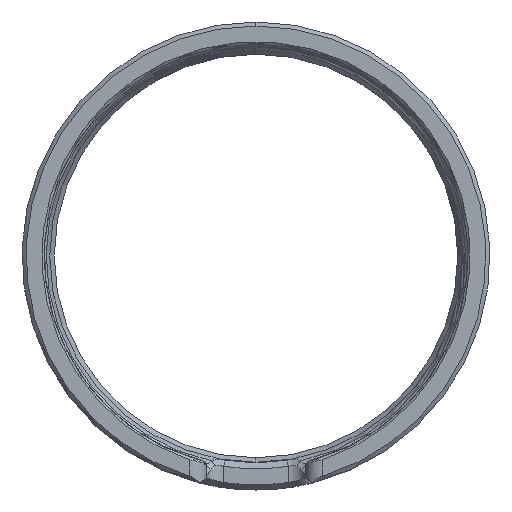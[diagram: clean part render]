
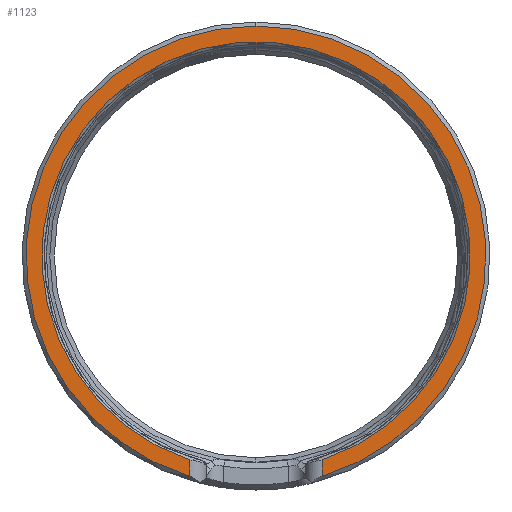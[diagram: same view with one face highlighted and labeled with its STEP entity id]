
A CAD part, left-side view. The second image highlights one B-rep face of the part: STEP entity #1123.
In plain terms, the highlighted planar face has unit normal (-1, 0, 0).
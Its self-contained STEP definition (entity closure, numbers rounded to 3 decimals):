
#39 = DIRECTION ( 'NONE',  ( 0., 0., 1. ) ) ;
#40 = EDGE_CURVE ( 'NONE', #5209, #4186, #5491, .T. ) ;
#746 = CIRCLE ( 'NONE', #1543, 26.55 ) ;
#902 = PLANE ( 'NONE',  #1531 ) ;
#1061 = DIRECTION ( 'NONE',  ( 0., 0., 1. ) ) ;
#1123 = ADVANCED_FACE ( 'NONE', ( #6392 ), #902, .T. ) ;
#1268 = LINE ( 'NONE', #3426, #3458 ) ;
#1314 = VECTOR ( 'NONE', #1061, 1000. ) ;
#1421 = EDGE_CURVE ( 'NONE', #3595, #2064, #5923, .T. ) ;
#1531 = AXIS2_PLACEMENT_3D ( 'NONE', #4786, #5316, #3095 ) ;
#1543 = AXIS2_PLACEMENT_3D ( 'NONE', #3983, #2386, #2997 ) ;
#1616 = ORIENTED_EDGE ( 'NONE', *, *, #1421, .F. ) ;
#1760 = AXIS2_PLACEMENT_3D ( 'NONE', #6103, #2516, #6641 ) ;
#1768 = EDGE_CURVE ( 'NONE', #2064, #2787, #746, .T. ) ;
#2064 = VERTEX_POINT ( 'NONE', #6872 ) ;
#2386 = DIRECTION ( 'NONE',  ( -1., 0., 0. ) ) ;
#2516 = DIRECTION ( 'NONE',  ( -1., 0., 0. ) ) ;
#2571 = ORIENTED_EDGE ( 'NONE', *, *, #4802, .T. ) ;
#2772 = CIRCLE ( 'NONE', #1760, 28.5 ) ;
#2787 = VERTEX_POINT ( 'NONE', #6022 ) ;
#2873 = CARTESIAN_POINT ( 'NONE',  ( -300., -8.2, -27.295 ) ) ;
#2997 = DIRECTION ( 'NONE',  ( 0., 0., 1. ) ) ;
#3095 = DIRECTION ( 'NONE',  ( 0., 0., -1. ) ) ;
#3195 = DIRECTION ( 'NONE',  ( 0., 0., 1. ) ) ;
#3235 = EDGE_LOOP ( 'NONE', ( #1616, #2571, #3723, #4393, #4194 ) ) ;
#3426 = CARTESIAN_POINT ( 'NONE',  ( -300., 8.2, -29. ) ) ;
#3458 = VECTOR ( 'NONE', #39, 1000. ) ;
#3595 = VERTEX_POINT ( 'NONE', #2873 ) ;
#3689 = DIRECTION ( 'NONE',  ( -1., 0., 0. ) ) ;
#3723 = ORIENTED_EDGE ( 'NONE', *, *, #40, .T. ) ;
#3820 = CARTESIAN_POINT ( 'NONE',  ( -300., -8.2, -29. ) ) ;
#3983 = CARTESIAN_POINT ( 'NONE',  ( -300., 0., 0. ) ) ;
#4186 = VERTEX_POINT ( 'NONE', #6976 ) ;
#4194 = ORIENTED_EDGE ( 'NONE', *, *, #1768, .F. ) ;
#4393 = ORIENTED_EDGE ( 'NONE', *, *, #5224, .T. ) ;
#4695 = AXIS2_PLACEMENT_3D ( 'NONE', #5900, #3689, #3195 ) ;
#4786 = CARTESIAN_POINT ( 'NONE',  ( -300., 0., 0. ) ) ;
#4802 = EDGE_CURVE ( 'NONE', #3595, #5209, #2772, .T. ) ;
#5209 = VERTEX_POINT ( 'NONE', #6120 ) ;
#5224 = EDGE_CURVE ( 'NONE', #4186, #2787, #1268, .T. ) ;
#5316 = DIRECTION ( 'NONE',  ( -1., 0., 0. ) ) ;
#5491 = CIRCLE ( 'NONE', #4695, 28.5 ) ;
#5900 = CARTESIAN_POINT ( 'NONE',  ( -300., 0., 0. ) ) ;
#5923 = LINE ( 'NONE', #3820, #1314 ) ;
#6022 = CARTESIAN_POINT ( 'NONE',  ( -300., 8.2, -25.252 ) ) ;
#6103 = CARTESIAN_POINT ( 'NONE',  ( -300., 0., 0. ) ) ;
#6120 = CARTESIAN_POINT ( 'NONE',  ( -300., 0., 28.5 ) ) ;
#6392 = FACE_OUTER_BOUND ( 'NONE', #3235, .T. ) ;
#6641 = DIRECTION ( 'NONE',  ( 0., 0., 1. ) ) ;
#6872 = CARTESIAN_POINT ( 'NONE',  ( -300., -8.2, -25.252 ) ) ;
#6976 = CARTESIAN_POINT ( 'NONE',  ( -300., 8.2, -27.295 ) ) ;
